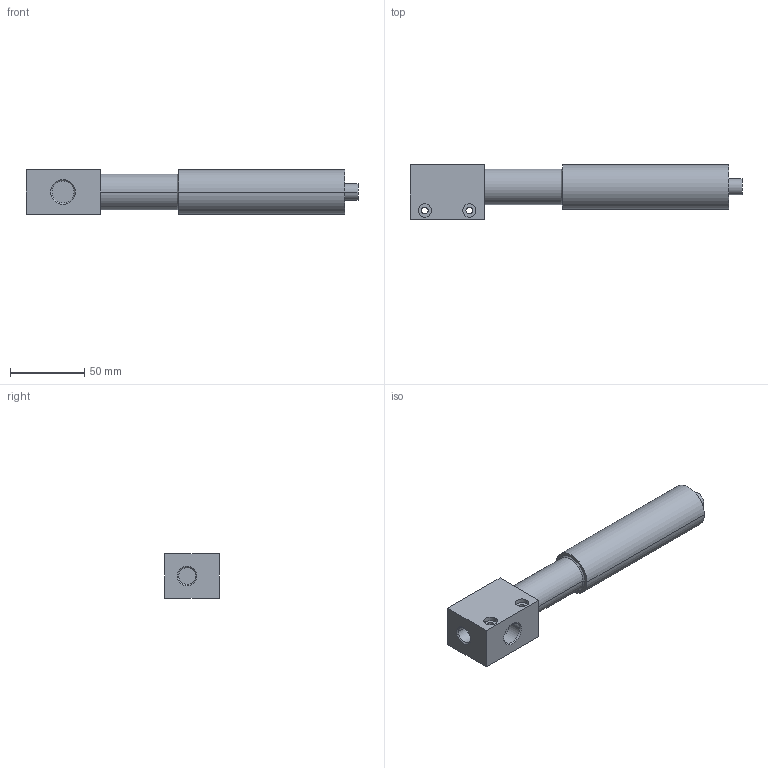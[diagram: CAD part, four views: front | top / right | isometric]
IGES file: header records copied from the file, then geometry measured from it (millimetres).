
Start section:  PTC IGES file: D:\Tpo v2\SharedFS\Outgoing\ejecteurGPlus2ejPl5016h00.ig s
Global section: file name: D:\Tpo v2\SharedFS\Outgoing\ejecteurGPlus2ejPl5016h00.igs; native system:  by Parametric Technology Corporation; preprocessor: 2004280; organization: Unknown; date: 080310.095722; units: millimetre
Bounding box: 224 x 37 x 30 mm (x, y, z)
Volume: 155207 mm3; surface area: 25993.6 mm2
Topology: 1 solids, 1 shells, 43 faces, 90 edges, 58 vertices
Faces by surface type: revolution 28, bspline 15
